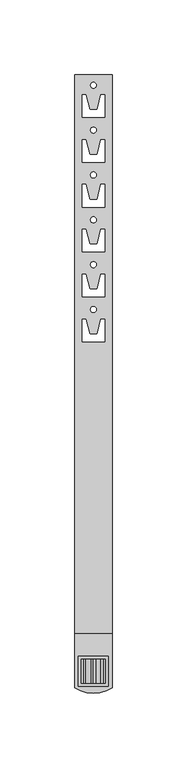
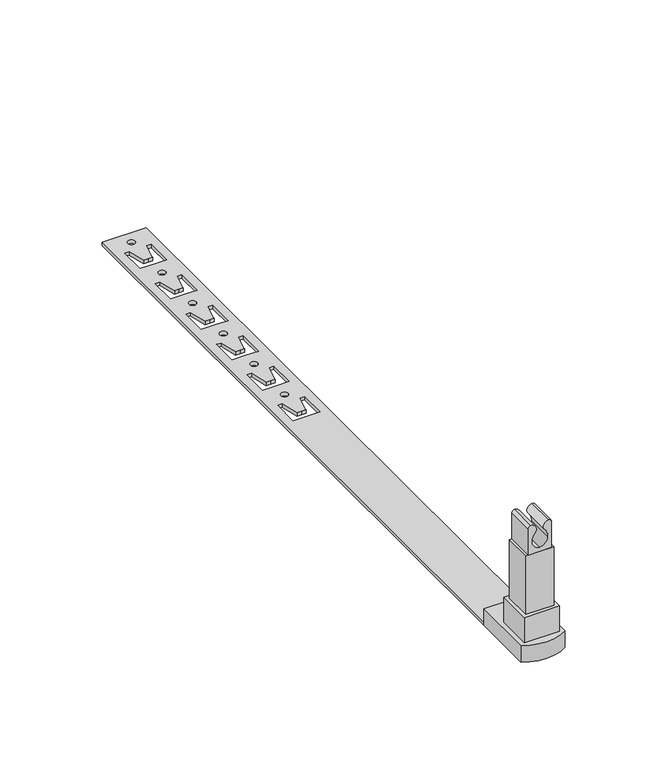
"""IFC4 building model written with IfcOpenShell, lengths in millimetres: proxy geometry, КНС_ДержательПластиковыйПодЧерепицу_DKC : ND2213CU_Медь_415 мм."""

from ifc_helpers import new_model, si_unit, point, frame, frame_2d, origin, origin_with_axes, place, context, project, spatial, polyline, circle_curve, trimmed, segment, composite_curve, outline, extrude, source, transform, mapped, element, save


def security_devices_2357bbe1(model_context):
    return source(origin(), model_context, "Body", "SweptSolid", [
        extrude(outline(composite_curve([segment(polyline([(60.0, -6.5293889), (60.0, 6.5293889), (75.482262, 6.5293889)]), True, "CONTINUOUS"), segment(trimmed(circle_curve(frame_2d((75.482262, 5.0116508)), 1.517738), [point((75.482262, 6.5293889))], [point((77.0, 5.0116508))], False, "CARTESIAN"), True, "CONTINUOUS"), segment(trimmed(circle_curve(frame_2d((73.9480635, 5.0116508)), 3.0519365), [point((77.0, 5.0116508))], [point((72.7845702, 2.1901974))], False, "CARTESIAN"), True, "CONTINUOUS"), segment(trimmed(circle_curve(frame_2d((67.0, -3.6308466)), 8.206449), [point((72.7845702, 2.1901974))], [point((67.0, 4.5756024))], True, "CARTESIAN"), True, "CONTINUOUS"), segment(trimmed(circle_curve(frame_2d((67.0, 0.0)), 4.5756024), [point((67.0, 4.5756024))], [point((62.4243976, 0.0))], True, "CARTESIAN"), True, "CONTINUOUS"), segment(trimmed(circle_curve(frame_2d((67.0, 0.0)), 4.5756024), [point((62.4243976, 0.0))], [point((67.0, -4.5756024))], True, "CARTESIAN"), True, "CONTINUOUS"), segment(trimmed(circle_curve(frame_2d((67.0, 3.6308466)), 8.206449), [point((67.0, -4.5756024))], [point((72.7845702, -2.1901974))], True, "CARTESIAN"), True, "CONTINUOUS"), segment(trimmed(circle_curve(frame_2d((73.9480635, -5.0116508)), 3.0519365), [point((72.7845702, -2.1901974))], [point((77.0, -5.0116508))], False, "CARTESIAN"), True, "CONTINUOUS"), segment(trimmed(circle_curve(frame_2d((75.482262, -5.0116508)), 1.517738), [point((77.0, -5.0116508))], [point((75.482262, -6.5293889))], False, "CARTESIAN"), True, "CONTINUOUS"), segment(polyline([(75.482262, -6.5293889), (60.0, -6.5293889)]), True, "CONTINUOUS")], self_intersect=False)), frame((0.0, 8.0, 0.0), z_axis=(0.0, 1.0, 0.0), x_axis=(0.0, 0.0, 1.0)), (0.0, 0.0, 1.0), 16.0),
        extrude(outline(polyline([(8.0, 24.0), (8.0, 8.0), (-8.0, 8.0), (-8.0, 24.0), (8.0, 24.0)])), frame((0.0, 0.0, 25.0), z_axis=(0.0, 0.0, 1.0), x_axis=(1.0, 0.0, 0.0)), (0.0, 0.0, 1.0), 35.0),
        extrude(outline(polyline([(10.0, 26.0), (10.0, 6.0), (-10.0, 6.0), (-10.0, 26.0), (10.0, 26.0)])), frame((0.0, 0.0, 10.0), z_axis=(0.0, 0.0, 1.0), x_axis=(1.0, 0.0, 0.0)), (0.0, 0.0, 1.0), 15.0),
        extrude(outline(composite_curve([segment(trimmed(circle_curve(frame_2d((0.0, 24.125)), 22.8476613), [point((12.5, 5.0))], [point((-12.5, 5.0))], False, "CARTESIAN"), True, "CONTINUOUS"), segment(polyline([(-12.5, 5.0), (-12.5, 41.0), (12.5, 41.0), (12.5, 5.0)]), True, "CONTINUOUS")], self_intersect=False)), origin_with_axes(), (0.0, 0.0, 1.0), 10.0),
        extrude(outline(polyline([(12.5, 415.0), (12.5, 41.0), (-12.5, 41.0), (-12.5, 415.0), (12.5, 415.0)]), holes=[composite_curve([segment(trimmed(circle_curve(frame_2d((0.0, 407.9763791)), 2.0), [point((-2.0, 407.9763791))], [point((2.0, 407.9763791))], True, "CARTESIAN"), True, "CONTINUOUS"), segment(trimmed(circle_curve(frame_2d((0.0, 407.9763791)), 2.0), [point((2.0, 407.9763791))], [point((-2.0, 407.9763791))], True, "CARTESIAN"), True, "CONTINUOUS")], self_intersect=False), polyline([(-7.5, 386.5), (0.0, 386.5), (7.5, 386.5), (7.5, 401.5981413), (5.0452497, 401.5981413), (2.5276553, 391.5), (0.0, 391.5), (-2.5276553, 391.5), (-5.0452497, 401.5981413), (-7.5, 401.5981413), (-7.5, 386.5)]), composite_curve([segment(trimmed(circle_curve(frame_2d((0.0, 377.9763791)), 2.0), [point((-2.0, 377.9763791))], [point((2.0, 377.9763791))], True, "CARTESIAN"), True, "CONTINUOUS"), segment(trimmed(circle_curve(frame_2d((0.0, 377.9763791)), 2.0), [point((2.0, 377.9763791))], [point((-2.0, 377.9763791))], True, "CARTESIAN"), True, "CONTINUOUS")], self_intersect=False), polyline([(-7.5, 356.5), (0.0, 356.5), (7.5, 356.5), (7.5, 371.5981413), (5.0452497, 371.5981413), (2.5276553, 361.5), (0.0, 361.5), (-2.5276553, 361.5), (-5.0452497, 371.5981413), (-7.5, 371.5981413), (-7.5, 356.5)]), composite_curve([segment(trimmed(circle_curve(frame_2d((0.0, 347.9763791)), 2.0), [point((-2.0, 347.9763791))], [point((2.0, 347.9763791))], True, "CARTESIAN"), True, "CONTINUOUS"), segment(trimmed(circle_curve(frame_2d((0.0, 347.9763791)), 2.0), [point((2.0, 347.9763791))], [point((-2.0, 347.9763791))], True, "CARTESIAN"), True, "CONTINUOUS")], self_intersect=False), polyline([(-7.5, 326.5), (0.0, 326.5), (7.5, 326.5), (7.5, 341.5981413), (5.0452497, 341.5981413), (2.5276553, 331.5), (0.0, 331.5), (-2.5276553, 331.5), (-5.0452497, 341.5981413), (-7.5, 341.5981413), (-7.5, 326.5)]), composite_curve([segment(trimmed(circle_curve(frame_2d((0.0, 317.9763791)), 2.0), [point((-2.0, 317.9763791))], [point((2.0, 317.9763791))], True, "CARTESIAN"), True, "CONTINUOUS"), segment(trimmed(circle_curve(frame_2d((0.0, 317.9763791)), 2.0), [point((2.0, 317.9763791))], [point((-2.0, 317.9763791))], True, "CARTESIAN"), True, "CONTINUOUS")], self_intersect=False), polyline([(-7.5, 296.5), (0.0, 296.5), (7.5, 296.5), (7.5, 311.5981413), (5.0452497, 311.5981413), (2.5276553, 301.5), (0.0, 301.5), (-2.5276553, 301.5), (-5.0452497, 311.5981413), (-7.5, 311.5981413), (-7.5, 296.5)]), composite_curve([segment(trimmed(circle_curve(frame_2d((0.0, 287.9763791)), 2.0), [point((-2.0, 287.9763791))], [point((2.0, 287.9763791))], True, "CARTESIAN"), True, "CONTINUOUS"), segment(trimmed(circle_curve(frame_2d((0.0, 287.9763791)), 2.0), [point((2.0, 287.9763791))], [point((-2.0, 287.9763791))], True, "CARTESIAN"), True, "CONTINUOUS")], self_intersect=False), polyline([(-7.5, 266.5), (0.0, 266.5), (7.5, 266.5), (7.5, 281.5981413), (5.0452497, 281.5981413), (2.5276553, 271.5), (0.0, 271.5), (-2.5276553, 271.5), (-5.0452497, 281.5981413), (-7.5, 281.5981413), (-7.5, 266.5)]), composite_curve([segment(trimmed(circle_curve(frame_2d((0.0, 257.9763791)), 2.0), [point((-2.0, 257.9763791))], [point((2.0, 257.9763791))], True, "CARTESIAN"), True, "CONTINUOUS"), segment(trimmed(circle_curve(frame_2d((0.0, 257.9763791)), 2.0), [point((2.0, 257.9763791))], [point((-2.0, 257.9763791))], True, "CARTESIAN"), True, "CONTINUOUS")], self_intersect=False), polyline([(-7.5, 236.5), (0.0, 236.5), (7.5, 236.5), (7.5, 251.5981413), (5.0452497, 251.5981413), (2.5276553, 241.5), (0.0, 241.5), (-2.5276553, 241.5), (-5.0452497, 251.5981413), (-7.5, 251.5981413), (-7.5, 236.5)])]), origin_with_axes(), (0.0, 0.0, 1.0), 2.0),
    ])


if __name__ == "__main__":
    model = new_model("IFC4")
    model_context = context("Model", 3, world=origin())
    ifc_project = project(units=[si_unit("LENGTHUNIT", "METRE", prefix="MILLI")], contexts=[model_context])
    site = spatial("IfcSite", under=ifc_project)
    building = spatial("IfcBuilding", under=site)
    placement = place(None, origin())
    security_devices_shape = security_devices_2357bbe1(model_context)
    element("IfcBuildingElementProxy", 1, Name="КНС_ДержательПластиковыйПодЧерепицу_DKC : ND2213CU_Медь_415 мм", ObjectType="КНС_ДержательПластиковыйПодЧерепицу_DKC : ND2213CU_Медь_415 мм", at=placement, inside=building, context=model_context, shape_type="MappedRepresentation", body=[
        mapped(security_devices_shape, transform((0.0, 0.0, 0.0), x_axis=(1.0, 0.0, 0.0), y_axis=(0.0, 1.0, 0.0), z_axis=(0.0, 0.0, 1.0))),
    ])
    save(model, "model.ifc")
